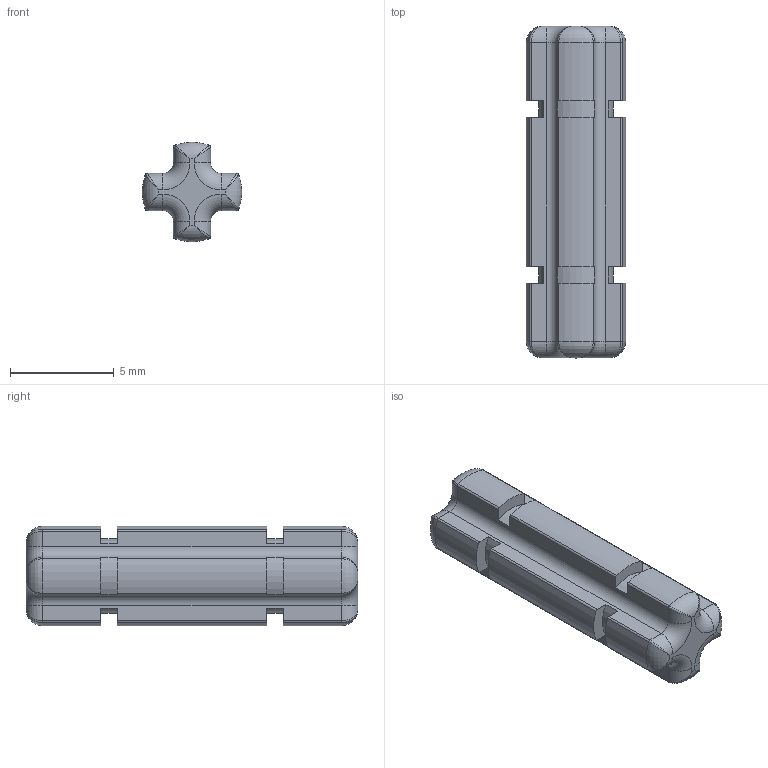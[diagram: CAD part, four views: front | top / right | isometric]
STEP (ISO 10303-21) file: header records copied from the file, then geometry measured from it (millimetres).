
FILE_DESCRIPTION(/* description */ ('Unknown'),/* implementation_level */ '2;1');
FILE_NAME(/* name */ 'Red_4142865_JCA',/* time_stamp */ '2025-07-22T00:02:51+02:00',/* author */ ('Unknown'),/* organization */ ('Unknown'),/* preprocessor_version */ 'ST-DEVELOPER v19.4',/* originating_system */ 'Solid Edge',/* authorisation */ 'Unknown');
FILE_SCHEMA (('AUTOMOTIVE_DESIGN {1 0 10303 214 3 1 1}'));
Length unit declared in the file: millimetre
Products named in the file (1): Red_4142865_JCA
Bounding box: 4.79 x 16 x 4.79 mm (x, y, z)
Volume: 209.9 mm3; surface area: 296.8 mm2
Topology: 1 solids, 1 shells, 122 faces, 312 edges, 176 vertices
Faces by surface type: cylinder 64, plane 26, torus 16, bspline 16
Entity records: 3790 total; most frequent: CARTESIAN_POINT 947, DIRECTION 606, ORIENTED_EDGE 592, EDGE_CURVE 296, AXIS2_PLACEMENT_3D 235, VERTEX_POINT 176, LINE 136, VECTOR 136
